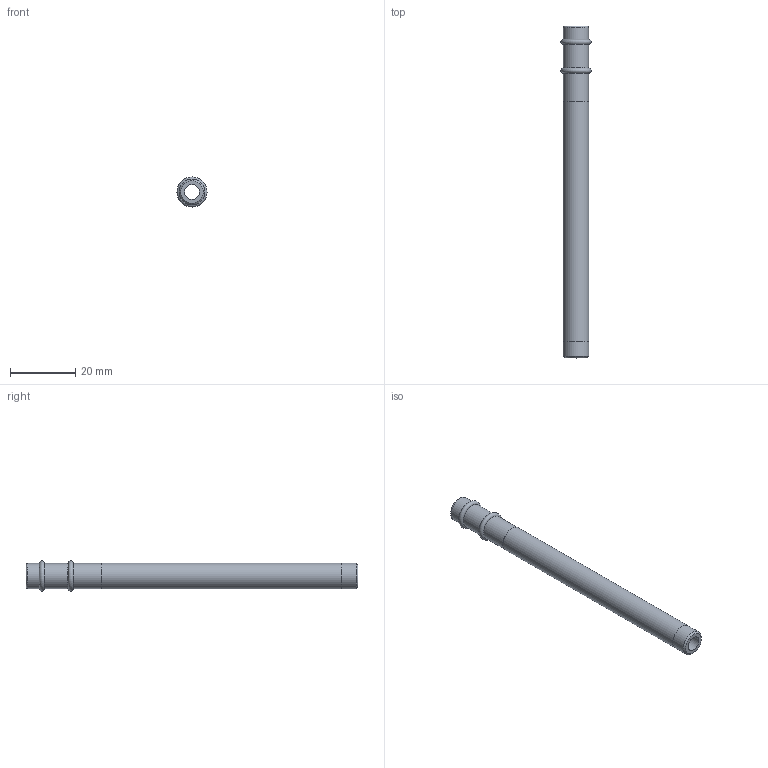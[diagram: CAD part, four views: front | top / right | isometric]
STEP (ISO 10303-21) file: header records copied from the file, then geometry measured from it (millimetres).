
FILE_DESCRIPTION(/* description */ (''),/* implementation_level */ '2;1');
FILE_NAME(/* name */ 'C:/Users/drich/Desktop/cad/Cascades/Jet Cool/Components/Outer Tubes/O-Ring Type/JCT-16-OR- v1.step',/* time_stamp */ '2020-01-10T15:16:28-06:00',/* author */ (''),/* organization */ (''),/* preprocessor_version */ 'ST-DEVELOPER v18',/* originating_system */ 'Autodesk Translation Framework v8.12.0.6',/* authorisation */ '');
FILE_SCHEMA (('AUTOMOTIVE_DESIGN { 1 0 10303 214 3 1 1 }'));
Length unit declared in the file: inch
Products named in the file (1): JCT-16-OR-
Bounding box: 9.22 x 101.6 x 9.22 mm (x, y, z)
Volume: 3287.5 mm3; surface area: 4313.7 mm2
Topology: 3 solids, 3 shells, 21 faces, 52 edges, 39 vertices
Faces by surface type: cylinder 8, plane 8, torus 4, cone 1
Full cylindrical faces by diameter (mm): 4.597 x1, 6.172 x2, 7.722 x3, 7.874 x1, 7.925 x1
Entity records: 732 total; most frequent: DIRECTION 139, CARTESIAN_POINT 113, ORIENTED_EDGE 104, AXIS2_PLACEMENT_3D 65, EDGE_CURVE 52, CIRCLE 43, VERTEX_POINT 39, EDGE_LOOP 29
